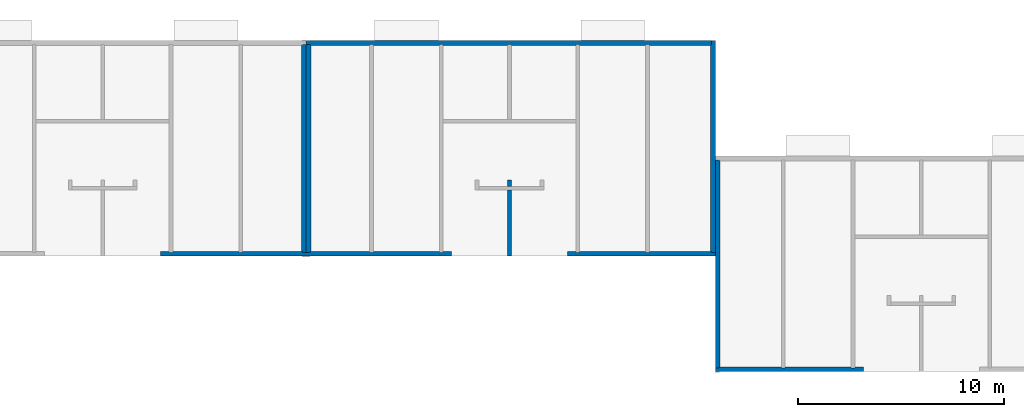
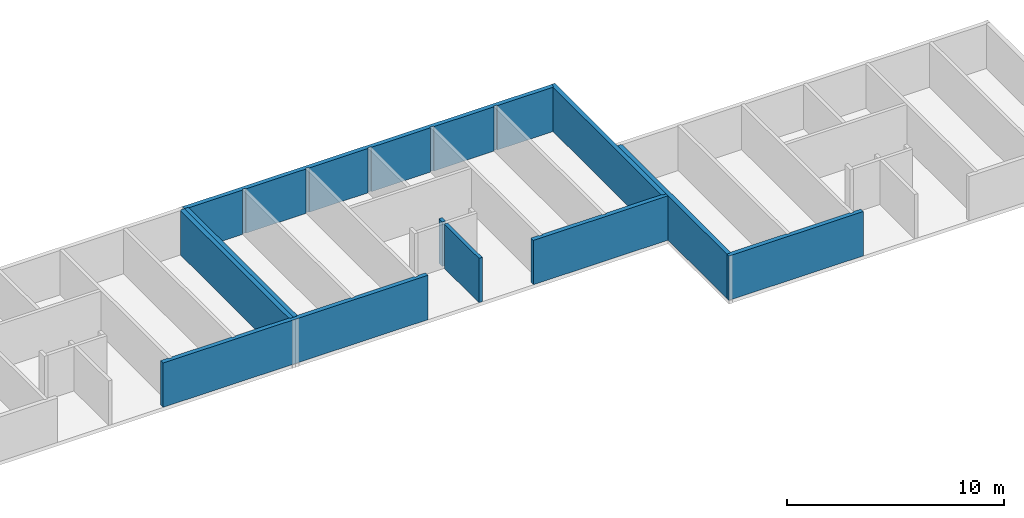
# One storey, part 8 of 9: 10 walls.
"""IFC2X3 building model written with IfcOpenShell, lengths in metres."""

from ifc_helpers import new_model, si_unit, frame, origin, place, context, project, spatial, faceted_brep, element, save


model = new_model("IFC2X3")

# Units and contexts
model_context = context("Model", 3, precision=1e-06, world=origin())
ifc_project = project(units=[si_unit("LENGTHUNIT", "METRE"), si_unit("PLANEANGLEUNIT", "RADIAN")], contexts=[model_context])

# Site, building, storey
site = spatial("IfcSite", under=ifc_project, CompositionType="ELEMENT")
building = spatial("IfcBuilding", under=site, CompositionType="ELEMENT")
storey = spatial("IfcBuildingStorey", under=building, Name="r+2", CompositionType="ELEMENT", Elevation=5.4)

# Walls
placement = place(None, origin())
wall_1_placement = place(placement, frame((29.80499999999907, 0.020038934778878, 5.4), z_axis=(0.0, 0.0, 1.0), x_axis=(0.0, 1.0, 0.0)))
element("IfcWall", 1, at=wall_1_placement, inside=storey, context=model_context, shape_type="Brep", body=[
    faceted_brep([(3.700038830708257, 0.18, 2.5), (3.700038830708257, 0.0, 2.5), (3.700038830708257, 0.0, 0.0), (3.700038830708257, 0.18, 0.0), (3.700038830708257, 0.0, 2.5), (3.380038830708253, 0.0, 2.5), (3.380038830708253, 0.0, 0.0), (3.700038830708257, 0.0, 0.0), (3.380038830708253, 0.0, 2.5), (3.380038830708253, 0.18, 2.5), (3.380038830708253, 0.18, 0.0), (3.380038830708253, 0.0, 0.0), (3.380038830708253, 0.18, 2.5), (3.700038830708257, 0.18, 2.5), (3.700038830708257, 0.18, 0.0), (3.380038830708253, 0.18, 0.0), (3.700038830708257, 0.18, 2.5), (3.380038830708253, 0.18, 2.5), (3.380038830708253, 0.0, 2.5), (3.700038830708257, 0.0, 2.5), (3.700038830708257, 0.18, 0.0), (3.700038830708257, 0.0, 0.0), (3.380038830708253, 0.0, 0.0), (3.380038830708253, 0.18, 0.0)], [[[0, 1, 2, 3]], [[4, 5, 6, 7]], [[8, 9, 10, 11]], [[12, 13, 14, 15]], [[16, 17, 18, 19]], [[20, 21, 22, 23]]]),
])
wall_2_placement = place(placement, frame((29.80499999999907, 0.020038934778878, 5.4), z_axis=(0.0, 0.0, 1.0), x_axis=(0.0, 1.0, 0.0)))
element("IfcWall", 2, at=wall_2_placement, inside=storey, context=model_context, shape_type="Brep", body=[
    faceted_brep([(3.200038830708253, 0.18, 2.5), (3.200038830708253, 0.0, 2.5), (3.200038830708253, 0.0, 0.0), (3.200038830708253, 0.18, 0.0), (3.200038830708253, 0.0, 2.5), (0.0, 0.0, 2.5), (0.0, 0.0, 0.0), (3.200038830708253, 0.0, 0.0), (0.0, 0.0, 2.5), (-7.16957565e-07, 0.18, 2.5), (-7.16957565e-07, 0.18, 0.0), (0.0, 0.0, 0.0), (-7.16957565e-07, 0.18, 2.5), (3.200038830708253, 0.18, 2.5), (3.200038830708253, 0.18, 0.0), (-7.16957565e-07, 0.18, 0.0), (3.200038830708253, 0.18, 2.5), (-7.16957565e-07, 0.18, 2.5), (0.0, 0.0, 2.5), (3.200038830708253, 0.0, 2.5), (3.200038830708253, 0.18, 0.0), (3.200038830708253, 0.0, 0.0), (0.0, 0.0, 0.0), (-7.16957565e-07, 0.18, 0.0)], [[[0, 1, 2, 3]], [[4, 5, 6, 7]], [[8, 9, 10, 11]], [[12, 13, 14, 15]], [[16, 17, 18, 19]], [[20, 21, 22, 23]]]),
])
wall_3_placement = place(placement, frame((19.849999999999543, 10.290077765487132, 5.4), z_axis=(0.0, 0.0, 1.0), x_axis=(0.0, -1.0, 0.0)))
element("IfcWall", 3, at=wall_3_placement, inside=storey, context=model_context, shape_type="Brep", body=[
    faceted_brep([(0.04, 0.18, 2.5), (0.04, 0.22, 2.5), (0.04, 0.22, 0.0), (0.04, 0.18, 0.0), (0.04, 0.22, 2.5), (0.05, 0.22, 2.5), (0.05, 0.22, 0.0), (0.04, 0.22, 0.0), (0.05, 0.22, 2.5), (0.05, 0.23, 2.5), (0.05, 0.23, 0.0), (0.05, 0.22, 0.0), (0.05, 0.23, 2.5), (10.03991497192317, 0.23, 2.5), (10.03991497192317, 0.23, 0.0), (0.05, 0.23, 0.0), (10.03991497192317, 0.23, 2.5), (10.03991497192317, 0.22, 2.5), (10.03991497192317, 0.22, 0.0), (10.03991497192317, 0.23, 0.0), (10.03991497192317, 0.22, 2.5), (10.04991497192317, 0.22, 2.5), (10.04991497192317, 0.22, 0.0), (10.03991497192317, 0.22, 0.0), (10.04991497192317, 0.22, 2.5), (10.04991497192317, 0.18, 2.5), (10.04991497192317, 0.18, 0.0), (10.04991497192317, 0.22, 0.0), (10.04991497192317, 0.18, 2.5), (10.08991497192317, 0.18, 2.5), (10.08991497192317, 0.18, 0.0), (10.04991497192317, 0.18, 0.0), (10.08991497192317, 0.18, 2.5), (10.08991497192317, 0.0, 2.5), (10.08991497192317, 0.0, 0.0), (10.08991497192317, 0.18, 0.0), (10.08991497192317, 0.0, 2.5), (0.0, 0.0, 2.5), (0.0, 0.0, 0.0), (10.08991497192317, 0.0, 0.0), (0.0, 0.0, 2.5), (0.0, 0.18, 2.5), (0.0, 0.18, 0.0), (0.0, 0.0, 0.0), (0.0, 0.18, 2.5), (0.04, 0.18, 2.5), (0.04, 0.18, 0.0), (0.0, 0.18, 0.0), (0.04, 0.18, 2.5), (0.0, 0.18, 2.5), (0.0, 0.0, 2.5), (10.08991497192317, 0.0, 2.5), (10.08991497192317, 0.18, 2.5), (10.04991497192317, 0.18, 2.5), (10.04991497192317, 0.22, 2.5), (10.03991497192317, 0.22, 2.5), (10.03991497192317, 0.23, 2.5), (0.05, 0.23, 2.5), (0.05, 0.22, 2.5), (0.04, 0.22, 2.5), (0.04, 0.18, 0.0), (0.04, 0.22, 0.0), (0.05, 0.22, 0.0), (0.05, 0.23, 0.0), (10.03991497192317, 0.23, 0.0), (10.03991497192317, 0.22, 0.0), (10.04991497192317, 0.22, 0.0), (10.04991497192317, 0.18, 0.0), (10.08991497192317, 0.18, 0.0), (10.08991497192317, 0.0, 0.0), (0.0, 0.0, 0.0), (0.0, 0.18, 0.0)], [[[0, 1, 2, 3]], [[4, 5, 6, 7]], [[8, 9, 10, 11]], [[12, 13, 14, 15]], [[16, 17, 18, 19]], [[20, 21, 22, 23]], [[24, 25, 26, 27]], [[28, 29, 30, 31]], [[32, 33, 34, 35]], [[36, 37, 38, 39]], [[40, 41, 42, 43]], [[44, 45, 46, 47]], [[48, 49, 50, 51, 52, 53, 54, 55, 56, 57, 58, 59]], [[60, 61, 62, 63, 64, 65, 66, 67, 68, 69, 70, 71]]]),
])
wall_4_placement = place(placement, frame((39.69999999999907, 4.690077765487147, 5.4), z_axis=(0.0, 0.0, 1.0), x_axis=(0.0, -1.0, 0.0)))
element("IfcWall", 4, at=wall_4_placement, inside=storey, context=model_context, shape_type="Brep", body=[
    faceted_brep([(0.04, 0.18, 2.5), (0.04, 0.22, 2.5), (0.04, 0.22, 0.0), (0.04, 0.18, 0.0), (0.04, 0.22, 2.5), (0.05, 0.22, 2.5), (0.05, 0.22, 0.0), (0.04, 0.22, 0.0), (0.05, 0.22, 2.5), (0.05, 0.23, 2.5), (0.05, 0.23, 0.0), (0.05, 0.22, 0.0), (0.05, 0.23, 2.5), (10.04000021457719, 0.23, 2.5), (10.04000021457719, 0.23, 0.0), (0.05, 0.23, 0.0), (10.04000021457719, 0.23, 2.5), (10.04000021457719, 0.22, 2.5), (10.04000021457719, 0.22, 0.0), (10.04000021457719, 0.23, 0.0), (10.04000021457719, 0.22, 2.5), (10.05000021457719, 0.22, 2.5), (10.05000021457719, 0.22, 0.0), (10.04000021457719, 0.22, 0.0), (10.05000021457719, 0.22, 2.5), (10.05000021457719, 0.18, 2.5), (10.05000021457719, 0.18, 0.0), (10.05000021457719, 0.22, 0.0), (10.05000021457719, 0.18, 2.5), (10.090000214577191, 0.18, 2.5), (10.090000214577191, 0.18, 0.0), (10.05000021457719, 0.18, 0.0), (10.090000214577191, 0.18, 2.5), (10.090000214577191, 0.0, 2.5), (10.090000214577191, 0.0, 0.0), (10.090000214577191, 0.18, 0.0), (10.090000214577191, 0.0, 2.5), (0.0, 0.0, 2.5), (0.0, 0.0, 0.0), (10.090000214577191, 0.0, 0.0), (0.0, 0.0, 2.5), (0.0, 0.18, 2.5), (0.0, 0.18, 0.0), (0.0, 0.0, 0.0), (0.0, 0.18, 2.5), (0.04, 0.18, 2.5), (0.04, 0.18, 0.0), (0.0, 0.18, 0.0), (0.04, 0.18, 2.5), (0.0, 0.18, 2.5), (0.0, 0.0, 2.5), (10.090000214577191, 0.0, 2.5), (10.090000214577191, 0.18, 2.5), (10.05000021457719, 0.18, 2.5), (10.05000021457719, 0.22, 2.5), (10.04000021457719, 0.22, 2.5), (10.04000021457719, 0.23, 2.5), (0.05, 0.23, 2.5), (0.05, 0.22, 2.5), (0.04, 0.22, 2.5), (0.04, 0.18, 0.0), (0.04, 0.22, 0.0), (0.05, 0.22, 0.0), (0.05, 0.23, 0.0), (10.04000021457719, 0.23, 0.0), (10.04000021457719, 0.22, 0.0), (10.05000021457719, 0.22, 0.0), (10.05000021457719, 0.18, 0.0), (10.090000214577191, 0.18, 0.0), (10.090000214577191, 0.0, 0.0), (0.0, 0.0, 0.0), (0.0, 0.18, 0.0)], [[[0, 1, 2, 3]], [[4, 5, 6, 7]], [[8, 9, 10, 11]], [[12, 13, 14, 15]], [[16, 17, 18, 19]], [[20, 21, 22, 23]], [[24, 25, 26, 27]], [[28, 29, 30, 31]], [[32, 33, 34, 35]], [[36, 37, 38, 39]], [[40, 41, 42, 43]], [[44, 45, 46, 47]], [[48, 49, 50, 51, 52, 53, 54, 55, 56, 57, 58, 59]], [[60, 61, 62, 63, 64, 65, 66, 67, 68, 69, 70, 71]]]),
])
wall_5_placement = place(placement, frame((39.51999999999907, 10.470077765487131, 5.4), z_axis=(0.0, 0.0, 1.0), x_axis=(-1.0, 0.0, 0.0)))
element("IfcWall", 5, at=wall_5_placement, inside=storey, context=model_context, shape_type="Brep", body=[
    faceted_brep([(19.44999999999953, 0.23, 2.5), (19.44999999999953, 0.22, 2.5), (19.44999999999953, 0.22, 0.0), (19.44999999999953, 0.23, 0.0), (19.44999999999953, 0.22, 2.5), (19.48999999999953, 0.22, 2.5), (19.48999999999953, 0.22, 0.0), (19.44999999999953, 0.22, 0.0), (19.48999999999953, 0.22, 2.5), (19.48999999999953, 0.18, 2.5), (19.48999999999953, 0.18, 0.0), (19.48999999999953, 0.22, 0.0), (19.48999999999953, 0.18, 2.5), (19.669999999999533, 0.18, 2.5), (19.669999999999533, 0.18, 0.0), (19.48999999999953, 0.18, 0.0), (19.669999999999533, 0.18, 2.5), (19.669999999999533, 0.0, 2.5), (19.669999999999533, 0.0, 0.0), (19.669999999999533, 0.18, 0.0), (19.669999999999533, 0.0, 2.5), (0.0, 0.0, 2.5), (0.0, 0.0, 0.0), (19.669999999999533, 0.0, 0.0), (0.0, 0.0, 2.5), (0.0, 0.18, 2.5), (0.0, 0.18, 0.0), (0.0, 0.0, 0.0), (0.0, 0.18, 2.5), (0.04, 0.18, 2.5), (0.04, 0.18, 0.0), (0.0, 0.18, 0.0), (0.04, 0.18, 2.5), (0.04, 0.22, 2.5), (0.04, 0.22, 0.0), (0.04, 0.18, 0.0), (0.04, 0.22, 2.5), (0.05, 0.22, 2.5), (0.05, 0.22, 0.0), (0.04, 0.22, 0.0), (0.05, 0.22, 2.5), (0.05, 0.23, 2.5), (0.05, 0.23, 0.0), (0.05, 0.22, 0.0), (0.05, 0.23, 2.5), (3.019999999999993, 0.23, 2.5), (3.019999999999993, 0.23, 0.0), (0.05, 0.23, 0.0), (3.019999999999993, 0.23, 2.5), (3.019999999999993, 0.18, 2.5), (3.019999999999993, 0.18, 0.0), (3.019999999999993, 0.23, 0.0), (3.019999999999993, 0.18, 2.5), (3.199999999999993, 0.18, 2.5), (3.199999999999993, 0.18, 0.0), (3.019999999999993, 0.18, 0.0), (3.199999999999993, 0.18, 2.5), (3.199999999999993, 0.23, 2.5), (3.199999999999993, 0.23, 0.0), (3.199999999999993, 0.18, 0.0), (3.199999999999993, 0.23, 2.5), (6.4, 0.229999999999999, 2.5), (6.4, 0.229999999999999, 0.0), (3.199999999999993, 0.23, 0.0), (6.4, 0.229999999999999, 2.5), (6.4, 0.180000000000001, 2.5), (6.4, 0.180000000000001, 0.0), (6.4, 0.229999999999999, 0.0), (6.4, 0.180000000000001, 2.5), (6.58, 0.180000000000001, 2.5), (6.58, 0.180000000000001, 0.0), (6.4, 0.180000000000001, 0.0), (6.58, 0.180000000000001, 2.5), (6.58, 0.229999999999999, 2.5), (6.58, 0.229999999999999, 0.0), (6.58, 0.180000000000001, 0.0), (6.58, 0.229999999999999, 2.5), (9.714999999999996, 0.229999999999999, 2.5), (9.714999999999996, 0.229999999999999, 0.0), (6.58, 0.229999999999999, 0.0), (9.714999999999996, 0.229999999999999, 2.5), (9.714999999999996, 0.179999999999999, 2.5), (9.714999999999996, 0.179999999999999, 0.0), (9.714999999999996, 0.229999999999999, 0.0), (9.714999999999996, 0.179999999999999, 2.5), (9.894999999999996, 0.179999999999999, 2.5), (9.894999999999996, 0.179999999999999, 0.0), (9.714999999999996, 0.179999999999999, 0.0), (9.894999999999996, 0.179999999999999, 2.5), (9.894999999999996, 0.229999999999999, 2.5), (9.894999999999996, 0.229999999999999, 0.0), (9.894999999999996, 0.179999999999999, 0.0), (9.894999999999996, 0.229999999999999, 2.5), (13.029999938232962, 0.229999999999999, 2.5), (13.029999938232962, 0.229999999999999, 0.0), (9.894999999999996, 0.229999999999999, 0.0), (13.029999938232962, 0.229999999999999, 2.5), (13.029999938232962, 0.179999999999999, 2.5), (13.029999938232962, 0.179999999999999, 0.0), (13.029999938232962, 0.229999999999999, 0.0), (13.029999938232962, 0.179999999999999, 2.5), (13.209999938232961, 0.179999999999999, 2.5), (13.209999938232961, 0.179999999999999, 0.0), (13.029999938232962, 0.179999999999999, 0.0), (13.209999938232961, 0.179999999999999, 2.5), (13.209999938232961, 0.229999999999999, 2.5), (13.209999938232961, 0.229999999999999, 0.0), (13.209999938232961, 0.179999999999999, 0.0), (13.209999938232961, 0.229999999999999, 2.5), (16.41000000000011, 0.23, 2.5), (16.41000000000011, 0.23, 0.0), (13.209999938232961, 0.229999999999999, 0.0), (16.41000000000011, 0.23, 2.5), (16.41000000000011, 0.18, 2.5), (16.41000000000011, 0.18, 0.0), (16.41000000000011, 0.23, 0.0), (16.41000000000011, 0.18, 2.5), (16.59000000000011, 0.18, 2.5), (16.59000000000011, 0.18, 0.0), (16.41000000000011, 0.18, 0.0), (16.59000000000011, 0.18, 2.5), (16.59000000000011, 0.23, 2.5), (16.59000000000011, 0.23, 0.0), (16.59000000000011, 0.18, 0.0), (16.59000000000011, 0.23, 2.5), (19.44999999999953, 0.23, 2.5), (19.44999999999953, 0.23, 0.0), (16.59000000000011, 0.23, 0.0), (19.44999999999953, 0.23, 2.5), (16.59000000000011, 0.23, 2.5), (16.59000000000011, 0.18, 2.5), (16.41000000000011, 0.18, 2.5), (16.41000000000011, 0.23, 2.5), (13.209999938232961, 0.229999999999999, 2.5), (13.209999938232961, 0.179999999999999, 2.5), (13.029999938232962, 0.179999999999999, 2.5), (13.029999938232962, 0.229999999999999, 2.5), (9.894999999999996, 0.229999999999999, 2.5), (9.894999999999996, 0.179999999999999, 2.5), (9.714999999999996, 0.179999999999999, 2.5), (9.714999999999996, 0.229999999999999, 2.5), (6.58, 0.229999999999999, 2.5), (6.58, 0.180000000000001, 2.5), (6.4, 0.180000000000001, 2.5), (6.4, 0.229999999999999, 2.5), (3.199999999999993, 0.23, 2.5), (3.199999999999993, 0.18, 2.5), (3.019999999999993, 0.18, 2.5), (3.019999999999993, 0.23, 2.5), (0.05, 0.23, 2.5), (0.05, 0.22, 2.5), (0.04, 0.22, 2.5), (0.04, 0.18, 2.5), (0.0, 0.18, 2.5), (0.0, 0.0, 2.5), (19.669999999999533, 0.0, 2.5), (19.669999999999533, 0.18, 2.5), (19.48999999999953, 0.18, 2.5), (19.48999999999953, 0.22, 2.5), (19.44999999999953, 0.22, 2.5), (19.44999999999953, 0.23, 0.0), (19.44999999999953, 0.22, 0.0), (19.48999999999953, 0.22, 0.0), (19.48999999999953, 0.18, 0.0), (19.669999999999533, 0.18, 0.0), (19.669999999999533, 0.0, 0.0), (0.0, 0.0, 0.0), (0.0, 0.18, 0.0), (0.04, 0.18, 0.0), (0.04, 0.22, 0.0), (0.05, 0.22, 0.0), (0.05, 0.23, 0.0), (3.019999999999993, 0.23, 0.0), (3.019999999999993, 0.18, 0.0), (3.199999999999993, 0.18, 0.0), (3.199999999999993, 0.23, 0.0), (6.4, 0.229999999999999, 0.0), (6.4, 0.180000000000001, 0.0), (6.58, 0.180000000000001, 0.0), (6.58, 0.229999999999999, 0.0), (9.714999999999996, 0.229999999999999, 0.0), (9.714999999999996, 0.179999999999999, 0.0), (9.894999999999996, 0.179999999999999, 0.0), (9.894999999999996, 0.229999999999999, 0.0), (13.029999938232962, 0.229999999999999, 0.0), (13.029999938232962, 0.179999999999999, 0.0), (13.209999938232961, 0.179999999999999, 0.0), (13.209999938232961, 0.229999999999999, 0.0), (16.41000000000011, 0.23, 0.0), (16.41000000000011, 0.18, 0.0), (16.59000000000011, 0.18, 0.0), (16.59000000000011, 0.23, 0.0)], [[[0, 1, 2, 3]], [[4, 5, 6, 7]], [[8, 9, 10, 11]], [[12, 13, 14, 15]], [[16, 17, 18, 19]], [[20, 21, 22, 23]], [[24, 25, 26, 27]], [[28, 29, 30, 31]], [[32, 33, 34, 35]], [[36, 37, 38, 39]], [[40, 41, 42, 43]], [[44, 45, 46, 47]], [[48, 49, 50, 51]], [[52, 53, 54, 55]], [[56, 57, 58, 59]], [[60, 61, 62, 63]], [[64, 65, 66, 67]], [[68, 69, 70, 71]], [[72, 73, 74, 75]], [[76, 77, 78, 79]], [[80, 81, 82, 83]], [[84, 85, 86, 87]], [[88, 89, 90, 91]], [[92, 93, 94, 95]], [[96, 97, 98, 99]], [[100, 101, 102, 103]], [[104, 105, 106, 107]], [[108, 109, 110, 111]], [[112, 113, 114, 115]], [[116, 117, 118, 119]], [[120, 121, 122, 123]], [[124, 125, 126, 127]], [[128, 129, 130, 131, 132, 133, 134, 135, 136, 137, 138, 139, 140, 141, 142, 143, 144, 145, 146, 147, 148, 149, 150, 151, 152, 153, 154, 155, 156, 157, 158, 159]], [[160, 161, 162, 163, 164, 165, 166, 167, 168, 169, 170, 171, 172, 173, 174, 175, 176, 177, 178, 179, 180, 181, 182, 183, 184, 185, 186, 187, 188, 189, 190, 191]]]),
])
wall_6_placement = place(placement, frame((39.69999999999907, -5.579922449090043, 5.4), z_axis=(0.0, 0.0, 1.0), x_axis=(1.0, 0.0, 0.0)))
element("IfcWall", 6, at=wall_6_placement, inside=storey, context=model_context, shape_type="Brep", body=[
    faceted_brep([(7.175000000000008, 0.0, 2.500000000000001), (0.0, 0.0, 2.500000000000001), (0.0, 0.0, 0.0), (7.175000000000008, 0.0, 0.0), (0.0, 0.0, 2.500000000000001), (0.0, 0.18, 2.500000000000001), (0.0, 0.18, 0.0), (0.0, 0.0, 0.0), (0.0, 0.18, 2.500000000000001), (0.18, 0.18, 2.500000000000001), (0.18, 0.18, 0.0), (0.0, 0.18, 0.0), (0.18, 0.18, 2.500000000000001), (0.18, 0.22, 2.500000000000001), (0.18, 0.22, 0.0), (0.18, 0.18, 0.0), (0.18, 0.22, 2.500000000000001), (0.22, 0.22, 2.500000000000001), (0.22, 0.22, 0.0), (0.18, 0.22, 0.0), (0.22, 0.22, 2.500000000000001), (0.22, 0.23, 2.500000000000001), (0.22, 0.23, 0.0), (0.22, 0.22, 0.0), (0.22, 0.23, 2.500000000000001), (3.200000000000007, 0.23, 2.500000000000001), (3.200000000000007, 0.23, 0.0), (0.22, 0.23, 0.0), (3.200000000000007, 0.23, 2.500000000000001), (3.200000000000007, 0.18, 2.500000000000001), (3.200000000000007, 0.18, 0.0), (3.200000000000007, 0.23, 0.0), (3.200000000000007, 0.18, 2.500000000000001), (3.380000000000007, 0.18, 2.500000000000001), (3.380000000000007, 0.18, 0.0), (3.200000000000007, 0.18, 0.0), (3.380000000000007, 0.18, 2.500000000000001), (3.380000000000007, 0.23, 2.500000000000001), (3.380000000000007, 0.23, 0.0), (3.380000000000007, 0.18, 0.0), (3.380000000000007, 0.23, 2.500000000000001), (6.580000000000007, 0.23, 2.500000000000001), (6.580000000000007, 0.23, 0.0), (3.380000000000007, 0.23, 0.0), (6.580000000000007, 0.23, 2.500000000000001), (6.580000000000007, 0.18, 2.500000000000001), (6.580000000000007, 0.18, 0.0), (6.580000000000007, 0.23, 0.0), (6.580000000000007, 0.18, 2.500000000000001), (6.760000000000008, 0.18, 2.500000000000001), (6.760000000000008, 0.18, 0.0), (6.580000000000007, 0.18, 0.0), (6.760000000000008, 0.18, 2.500000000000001), (6.760000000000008, 0.23, 2.500000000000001), (6.760000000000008, 0.23, 0.0), (6.760000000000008, 0.18, 0.0), (6.760000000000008, 0.23, 2.500000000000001), (7.175000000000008, 0.23, 2.500000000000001), (7.175000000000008, 0.23, 0.0), (6.760000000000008, 0.23, 0.0), (7.175000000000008, 0.23, 2.500000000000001), (7.175000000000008, 0.0, 2.500000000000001), (7.175000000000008, 0.0, 0.0), (7.175000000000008, 0.23, 0.0), (7.175000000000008, 0.0, 2.500000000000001), (7.175000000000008, 0.23, 2.500000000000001), (6.760000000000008, 0.23, 2.500000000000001), (6.760000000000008, 0.18, 2.500000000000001), (6.580000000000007, 0.18, 2.500000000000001), (6.580000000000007, 0.23, 2.500000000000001), (3.380000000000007, 0.23, 2.500000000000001), (3.380000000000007, 0.18, 2.500000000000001), (3.200000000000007, 0.18, 2.500000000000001), (3.200000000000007, 0.23, 2.500000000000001), (0.22, 0.23, 2.500000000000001), (0.22, 0.22, 2.500000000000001), (0.18, 0.22, 2.500000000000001), (0.18, 0.18, 2.500000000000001), (0.0, 0.18, 2.500000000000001), (0.0, 0.0, 2.500000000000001), (7.175000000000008, 0.0, 0.0), (0.0, 0.0, 0.0), (0.0, 0.18, 0.0), (0.18, 0.18, 0.0), (0.18, 0.22, 0.0), (0.22, 0.22, 0.0), (0.22, 0.23, 0.0), (3.200000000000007, 0.23, 0.0), (3.200000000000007, 0.18, 0.0), (3.380000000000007, 0.18, 0.0), (3.380000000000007, 0.23, 0.0), (6.580000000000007, 0.23, 0.0), (6.580000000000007, 0.18, 0.0), (6.760000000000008, 0.18, 0.0), (6.760000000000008, 0.23, 0.0), (7.175000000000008, 0.23, 0.0)], [[[0, 1, 2, 3]], [[4, 5, 6, 7]], [[8, 9, 10, 11]], [[12, 13, 14, 15]], [[16, 17, 18, 19]], [[20, 21, 22, 23]], [[24, 25, 26, 27]], [[28, 29, 30, 31]], [[32, 33, 34, 35]], [[36, 37, 38, 39]], [[40, 41, 42, 43]], [[44, 45, 46, 47]], [[48, 49, 50, 51]], [[52, 53, 54, 55]], [[56, 57, 58, 59]], [[60, 61, 62, 63]], [[64, 65, 66, 67, 68, 69, 70, 71, 72, 73, 74, 75, 76, 77, 78, 79]], [[80, 81, 82, 83, 84, 85, 86, 87, 88, 89, 90, 91, 92, 93, 94, 95]]]),
])
wall_7_placement = place(placement, frame((39.69999999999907, 0.200077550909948, 5.4), z_axis=(0.0, 0.0, 1.0), x_axis=(0.0, 1.0, 0.0)))
element("IfcWall", 7, at=wall_7_placement, inside=storey, context=model_context, shape_type="Brep", body=[
    faceted_brep([(0.04, 0.18, 2.5), (0.04, 0.22, 2.5), (0.04, 0.22, 0.0), (0.04, 0.18, 0.0), (0.04, 0.22, 2.5), (0.05, 0.22, 2.5), (0.05, 0.22, 0.0), (0.04, 0.22, 0.0), (0.05, 0.22, 2.5), (0.05, 0.23, 2.5), (0.05, 0.23, 0.0), (0.05, 0.22, 0.0), (0.05, 0.23, 2.5), (10.05000021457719, 0.23, 2.5), (10.05000021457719, 0.23, 0.0), (0.05, 0.23, 0.0), (10.05000021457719, 0.23, 2.5), (10.05000021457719, 0.22, 2.5), (10.05000021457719, 0.22, 0.0), (10.05000021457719, 0.23, 0.0), (10.05000021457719, 0.22, 2.5), (10.090000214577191, 0.22, 2.5), (10.090000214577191, 0.22, 0.0), (10.05000021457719, 0.22, 0.0), (10.090000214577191, 0.22, 2.5), (10.090000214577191, 0.18, 2.5), (10.090000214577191, 0.18, 0.0), (10.090000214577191, 0.22, 0.0), (10.090000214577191, 0.18, 2.5), (10.270000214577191, 0.18, 2.5), (10.270000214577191, 0.18, 0.0), (10.090000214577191, 0.18, 0.0), (10.270000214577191, 0.18, 2.5), (10.270000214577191, 0.0, 2.5), (10.270000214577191, 0.0, 0.0), (10.270000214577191, 0.18, 0.0), (10.270000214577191, 0.0, 2.5), (0.0, 0.0, 2.5), (0.0, 0.0, 0.0), (10.270000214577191, 0.0, 0.0), (0.0, 0.0, 2.5), (0.0, 0.18, 2.5), (0.0, 0.18, 0.0), (0.0, 0.0, 0.0), (0.0, 0.18, 2.5), (0.04, 0.18, 2.5), (0.04, 0.18, 0.0), (0.0, 0.18, 0.0), (0.04, 0.18, 2.5), (0.0, 0.18, 2.5), (0.0, 0.0, 2.5), (10.270000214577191, 0.0, 2.5), (10.270000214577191, 0.18, 2.5), (10.090000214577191, 0.18, 2.5), (10.090000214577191, 0.22, 2.5), (10.05000021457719, 0.22, 2.5), (10.05000021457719, 0.23, 2.5), (0.05, 0.23, 2.5), (0.05, 0.22, 2.5), (0.04, 0.22, 2.5), (0.04, 0.18, 0.0), (0.04, 0.22, 0.0), (0.05, 0.22, 0.0), (0.05, 0.23, 0.0), (10.05000021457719, 0.23, 0.0), (10.05000021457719, 0.22, 0.0), (10.090000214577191, 0.22, 0.0), (10.090000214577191, 0.18, 0.0), (10.270000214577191, 0.18, 0.0), (10.270000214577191, 0.0, 0.0), (0.0, 0.0, 0.0), (0.0, 0.18, 0.0)], [[[0, 1, 2, 3]], [[4, 5, 6, 7]], [[8, 9, 10, 11]], [[12, 13, 14, 15]], [[16, 17, 18, 19]], [[20, 21, 22, 23]], [[24, 25, 26, 27]], [[28, 29, 30, 31]], [[32, 33, 34, 35]], [[36, 37, 38, 39]], [[40, 41, 42, 43]], [[44, 45, 46, 47]], [[48, 49, 50, 51, 52, 53, 54, 55, 56, 57, 58, 59]], [[60, 61, 62, 63, 64, 65, 66, 67, 68, 69, 70, 71]]]),
])
wall_8_placement = place(placement, frame((12.795000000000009, 0.02016279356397, 5.4), z_axis=(0.0, 0.0, 1.0), x_axis=(1.0, 0.0, 0.0)))
element("IfcWall", 8, at=wall_8_placement, inside=storey, context=model_context, shape_type="Brep", body=[
    faceted_brep([(10.13499999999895, 0.179914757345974, 2.5), (10.314999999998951, 0.179914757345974, 2.5), (10.314999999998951, 0.179914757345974, 0.0), (10.13499999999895, 0.179914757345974, 0.0), (10.314999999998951, 0.179914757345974, 2.5), (10.314999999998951, 0.23, 2.5), (10.314999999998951, 0.23, 0.0), (10.314999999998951, 0.179914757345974, 0.0), (10.314999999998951, 0.23, 2.5), (13.5150000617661, 0.23, 2.5), (13.5150000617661, 0.23, 0.0), (10.314999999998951, 0.23, 0.0), (13.5150000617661, 0.23, 2.5), (13.5150000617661, 0.179914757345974, 2.5), (13.5150000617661, 0.179914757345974, 0.0), (13.5150000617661, 0.23, 0.0), (13.5150000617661, 0.179914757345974, 2.5), (13.695000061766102, 0.179914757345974, 2.5), (13.695000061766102, 0.179914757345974, 0.0), (13.5150000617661, 0.179914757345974, 0.0), (13.695000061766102, 0.179914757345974, 2.5), (13.695000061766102, 0.23, 2.5), (13.695000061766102, 0.23, 0.0), (13.695000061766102, 0.179914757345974, 0.0), (13.695000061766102, 0.23, 2.5), (14.110000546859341, 0.23, 2.5), (14.110000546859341, 0.23, 0.0), (13.695000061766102, 0.23, 0.0), (14.110000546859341, 0.23, 2.5), (14.110000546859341, 0.0, 2.5), (14.110000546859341, 0.0, 0.0), (14.110000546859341, 0.23, 0.0), (14.110000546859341, 0.0, 2.5), (0.0, 0.0, 2.5), (0.0, 0.0, 0.0), (14.110000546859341, 0.0, 0.0), (0.0, 0.0, 2.5), (0.0, 0.23, 2.5), (0.0, 0.23, 0.0), (0.0, 0.0, 0.0), (0.0, 0.23, 2.5), (0.4149999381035, 0.23, 2.5), (0.4149999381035, 0.23, 0.0), (0.0, 0.23, 0.0), (0.4149999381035, 0.23, 2.5), (0.4149999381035, 0.179914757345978, 2.5), (0.4149999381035, 0.179914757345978, 0.0), (0.4149999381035, 0.23, 0.0), (0.4149999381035, 0.179914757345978, 2.5), (0.594999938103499, 0.179914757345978, 2.5), (0.594999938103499, 0.179914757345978, 0.0), (0.4149999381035, 0.179914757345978, 0.0), (0.594999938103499, 0.179914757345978, 2.5), (0.594999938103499, 0.23, 2.5), (0.594999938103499, 0.23, 0.0), (0.594999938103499, 0.179914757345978, 0.0), (0.594999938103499, 0.23, 2.5), (3.795000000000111, 0.23, 2.5), (3.795000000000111, 0.23, 0.0), (0.594999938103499, 0.23, 0.0), (3.795000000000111, 0.23, 2.5), (3.795000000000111, 0.179914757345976, 2.5), (3.795000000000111, 0.179914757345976, 0.0), (3.795000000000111, 0.23, 0.0), (3.795000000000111, 0.179914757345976, 2.5), (3.975000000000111, 0.179914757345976, 2.5), (3.975000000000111, 0.179914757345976, 0.0), (3.795000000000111, 0.179914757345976, 0.0), (3.975000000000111, 0.179914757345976, 2.5), (3.975000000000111, 0.23, 2.5), (3.975000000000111, 0.23, 0.0), (3.975000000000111, 0.179914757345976, 0.0), (3.975000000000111, 0.23, 2.5), (6.834999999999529, 0.23, 2.5), (6.834999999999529, 0.23, 0.0), (3.975000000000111, 0.23, 0.0), (6.834999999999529, 0.23, 2.5), (6.834999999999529, 0.22, 2.5), (6.834999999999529, 0.22, 0.0), (6.834999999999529, 0.23, 0.0), (6.834999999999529, 0.22, 2.5), (6.874999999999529, 0.22, 2.5), (6.874999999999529, 0.22, 0.0), (6.834999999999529, 0.22, 0.0), (6.874999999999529, 0.22, 2.5), (6.874999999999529, 0.18, 2.5), (6.874999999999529, 0.18, 0.0), (6.874999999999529, 0.22, 0.0), (6.874999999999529, 0.18, 2.5), (7.234999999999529, 0.18, 2.5), (7.234999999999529, 0.18, 0.0), (6.874999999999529, 0.18, 0.0), (7.234999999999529, 0.18, 2.5), (7.234999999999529, 0.22, 2.5), (7.234999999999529, 0.22, 0.0), (7.234999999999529, 0.18, 0.0), (7.234999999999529, 0.22, 2.5), (7.274999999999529, 0.22, 2.5), (7.274999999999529, 0.22, 0.0), (7.234999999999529, 0.22, 0.0), (7.274999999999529, 0.22, 2.5), (7.274999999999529, 0.23, 2.5), (7.274999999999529, 0.23, 0.0), (7.274999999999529, 0.22, 0.0), (7.274999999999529, 0.23, 2.5), (10.13499999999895, 0.23, 2.5), (10.13499999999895, 0.23, 0.0), (7.274999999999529, 0.23, 0.0), (10.13499999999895, 0.23, 2.5), (10.13499999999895, 0.179914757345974, 2.5), (10.13499999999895, 0.179914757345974, 0.0), (10.13499999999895, 0.23, 0.0), (10.13499999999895, 0.179914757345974, 2.5), (10.13499999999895, 0.23, 2.5), (7.274999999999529, 0.23, 2.5), (7.274999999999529, 0.22, 2.5), (7.234999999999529, 0.22, 2.5), (7.234999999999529, 0.18, 2.5), (6.874999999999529, 0.18, 2.5), (6.874999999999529, 0.22, 2.5), (6.834999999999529, 0.22, 2.5), (6.834999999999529, 0.23, 2.5), (3.975000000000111, 0.23, 2.5), (3.975000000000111, 0.179914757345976, 2.5), (3.795000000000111, 0.179914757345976, 2.5), (3.795000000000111, 0.23, 2.5), (0.594999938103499, 0.23, 2.5), (0.594999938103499, 0.179914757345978, 2.5), (0.4149999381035, 0.179914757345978, 2.5), (0.4149999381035, 0.23, 2.5), (0.0, 0.23, 2.5), (0.0, 0.0, 2.5), (14.110000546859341, 0.0, 2.5), (14.110000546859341, 0.23, 2.5), (13.695000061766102, 0.23, 2.5), (13.695000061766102, 0.179914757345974, 2.5), (13.5150000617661, 0.179914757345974, 2.5), (13.5150000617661, 0.23, 2.5), (10.314999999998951, 0.23, 2.5), (10.314999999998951, 0.179914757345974, 2.5), (10.13499999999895, 0.179914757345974, 0.0), (10.314999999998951, 0.179914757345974, 0.0), (10.314999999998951, 0.23, 0.0), (13.5150000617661, 0.23, 0.0), (13.5150000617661, 0.179914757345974, 0.0), (13.695000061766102, 0.179914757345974, 0.0), (13.695000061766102, 0.23, 0.0), (14.110000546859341, 0.23, 0.0), (14.110000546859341, 0.0, 0.0), (0.0, 0.0, 0.0), (0.0, 0.23, 0.0), (0.4149999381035, 0.23, 0.0), (0.4149999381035, 0.179914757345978, 0.0), (0.594999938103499, 0.179914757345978, 0.0), (0.594999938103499, 0.23, 0.0), (3.795000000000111, 0.23, 0.0), (3.795000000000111, 0.179914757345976, 0.0), (3.975000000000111, 0.179914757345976, 0.0), (3.975000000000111, 0.23, 0.0), (6.834999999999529, 0.23, 0.0), (6.834999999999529, 0.22, 0.0), (6.874999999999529, 0.22, 0.0), (6.874999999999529, 0.18, 0.0), (7.234999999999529, 0.18, 0.0), (7.234999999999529, 0.22, 0.0), (7.274999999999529, 0.22, 0.0), (7.274999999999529, 0.23, 0.0), (10.13499999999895, 0.23, 0.0)], [[[0, 1, 2, 3]], [[4, 5, 6, 7]], [[8, 9, 10, 11]], [[12, 13, 14, 15]], [[16, 17, 18, 19]], [[20, 21, 22, 23]], [[24, 25, 26, 27]], [[28, 29, 30, 31]], [[32, 33, 34, 35]], [[36, 37, 38, 39]], [[40, 41, 42, 43]], [[44, 45, 46, 47]], [[48, 49, 50, 51]], [[52, 53, 54, 55]], [[56, 57, 58, 59]], [[60, 61, 62, 63]], [[64, 65, 66, 67]], [[68, 69, 70, 71]], [[72, 73, 74, 75]], [[76, 77, 78, 79]], [[80, 81, 82, 83]], [[84, 85, 86, 87]], [[88, 89, 90, 91]], [[92, 93, 94, 95]], [[96, 97, 98, 99]], [[100, 101, 102, 103]], [[104, 105, 106, 107]], [[108, 109, 110, 111]], [[112, 113, 114, 115, 116, 117, 118, 119, 120, 121, 122, 123, 124, 125, 126, 127, 128, 129, 130, 131, 132, 133, 134, 135, 136, 137, 138, 139]], [[140, 141, 142, 143, 144, 145, 146, 147, 148, 149, 150, 151, 152, 153, 154, 155, 156, 157, 158, 159, 160, 161, 162, 163, 164, 165, 166, 167]]]),
])
wall_9_placement = place(placement, frame((32.52499999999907, 0.020077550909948, 5.4), z_axis=(0.0, 0.0, 1.0), x_axis=(1.0, 0.0, 0.0)))
element("IfcWall", 9, at=wall_9_placement, inside=storey, context=model_context, shape_type="Brep", body=[
    faceted_brep([(0.414999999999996, 0.23, 2.5), (0.414999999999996, 0.18, 2.5), (0.414999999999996, 0.18, 0.0), (0.414999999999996, 0.23, 0.0), (0.414999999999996, 0.18, 2.5), (0.594999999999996, 0.18, 2.5), (0.594999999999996, 0.18, 0.0), (0.414999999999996, 0.18, 0.0), (0.594999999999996, 0.18, 2.5), (0.594999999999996, 0.23, 2.5), (0.594999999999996, 0.23, 0.0), (0.594999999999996, 0.18, 0.0), (0.594999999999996, 0.23, 2.5), (3.795000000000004, 0.23, 2.5), (3.795000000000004, 0.23, 0.0), (0.594999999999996, 0.23, 0.0), (3.795000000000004, 0.23, 2.5), (3.795000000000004, 0.18, 2.5), (3.795000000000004, 0.18, 0.0), (3.795000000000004, 0.23, 0.0), (3.795000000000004, 0.18, 2.5), (3.975000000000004, 0.18, 2.5), (3.975000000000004, 0.18, 0.0), (3.795000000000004, 0.18, 0.0), (3.975000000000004, 0.18, 2.5), (3.975000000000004, 0.23, 2.5), (3.975000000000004, 0.23, 0.0), (3.975000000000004, 0.18, 0.0), (3.975000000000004, 0.23, 2.5), (6.954999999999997, 0.23, 2.5), (6.954999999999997, 0.23, 0.0), (3.975000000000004, 0.23, 0.0), (6.954999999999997, 0.23, 2.5), (6.954999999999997, 0.22, 2.5), (6.954999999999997, 0.22, 0.0), (6.954999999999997, 0.23, 0.0), (6.954999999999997, 0.22, 2.5), (6.994999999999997, 0.22, 2.5), (6.994999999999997, 0.22, 0.0), (6.954999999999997, 0.22, 0.0), (6.994999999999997, 0.22, 2.5), (6.994999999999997, 0.18, 2.5), (6.994999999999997, 0.18, 0.0), (6.994999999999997, 0.22, 0.0), (6.994999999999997, 0.18, 2.5), (7.174999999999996, 0.18, 2.5), (7.174999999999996, 0.18, 0.0), (6.994999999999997, 0.18, 0.0), (7.174999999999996, 0.18, 2.5), (7.174999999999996, 0.0, 2.5), (7.174999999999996, 0.0, 0.0), (7.174999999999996, 0.18, 0.0), (7.174999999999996, 0.0, 2.5), (0.0, 0.0, 2.5), (0.0, 0.0, 0.0), (7.174999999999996, 0.0, 0.0), (0.0, 0.0, 2.5), (0.0, 0.23, 2.5), (0.0, 0.23, 0.0), (0.0, 0.0, 0.0), (0.0, 0.23, 2.5), (0.414999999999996, 0.23, 2.5), (0.414999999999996, 0.23, 0.0), (0.0, 0.23, 0.0), (0.414999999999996, 0.23, 2.5), (0.0, 0.23, 2.5), (0.0, 0.0, 2.5), (7.174999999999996, 0.0, 2.5), (7.174999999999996, 0.18, 2.5), (6.994999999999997, 0.18, 2.5), (6.994999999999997, 0.22, 2.5), (6.954999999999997, 0.22, 2.5), (6.954999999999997, 0.23, 2.5), (3.975000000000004, 0.23, 2.5), (3.975000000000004, 0.18, 2.5), (3.795000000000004, 0.18, 2.5), (3.795000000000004, 0.23, 2.5), (0.594999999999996, 0.23, 2.5), (0.594999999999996, 0.18, 2.5), (0.414999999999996, 0.18, 2.5), (0.414999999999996, 0.23, 0.0), (0.414999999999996, 0.18, 0.0), (0.594999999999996, 0.18, 0.0), (0.594999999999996, 0.23, 0.0), (3.795000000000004, 0.23, 0.0), (3.795000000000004, 0.18, 0.0), (3.975000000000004, 0.18, 0.0), (3.975000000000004, 0.23, 0.0), (6.954999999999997, 0.23, 0.0), (6.954999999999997, 0.22, 0.0), (6.994999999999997, 0.22, 0.0), (6.994999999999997, 0.18, 0.0), (7.174999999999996, 0.18, 0.0), (7.174999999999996, 0.0, 0.0), (0.0, 0.0, 0.0), (0.0, 0.23, 0.0)], [[[0, 1, 2, 3]], [[4, 5, 6, 7]], [[8, 9, 10, 11]], [[12, 13, 14, 15]], [[16, 17, 18, 19]], [[20, 21, 22, 23]], [[24, 25, 26, 27]], [[28, 29, 30, 31]], [[32, 33, 34, 35]], [[36, 37, 38, 39]], [[40, 41, 42, 43]], [[44, 45, 46, 47]], [[48, 49, 50, 51]], [[52, 53, 54, 55]], [[56, 57, 58, 59]], [[60, 61, 62, 63]], [[64, 65, 66, 67, 68, 69, 70, 71, 72, 73, 74, 75, 76, 77, 78, 79]], [[80, 81, 82, 83, 84, 85, 86, 87, 88, 89, 90, 91, 92, 93, 94, 95]]]),
])
wall_10_placement = place(placement, frame((19.849999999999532, 0.20016279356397, 5.4), z_axis=(0.0, 0.0, 1.0), x_axis=(0.0, 1.0, 0.0)))
element("IfcWall", 10, at=wall_10_placement, inside=storey, context=model_context, shape_type="Brep", body=[
    faceted_brep([(0.04, 0.18, 2.5), (0.04, 0.22, 2.5), (0.04, 0.22, 0.0), (0.04, 0.18, 0.0), (0.04, 0.22, 2.5), (0.05, 0.22, 2.5), (0.05, 0.22, 0.0), (0.04, 0.22, 0.0), (0.05, 0.22, 2.5), (0.05, 0.23, 2.5), (0.05, 0.23, 0.0), (0.05, 0.22, 0.0), (0.05, 0.23, 2.5), (10.03991497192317, 0.23, 2.5), (10.03991497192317, 0.23, 0.0), (0.05, 0.23, 0.0), (10.03991497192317, 0.23, 2.5), (10.03991497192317, 0.22, 2.5), (10.03991497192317, 0.22, 0.0), (10.03991497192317, 0.23, 0.0), (10.03991497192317, 0.22, 2.5), (10.04991497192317, 0.22, 2.5), (10.04991497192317, 0.22, 0.0), (10.03991497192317, 0.22, 0.0), (10.04991497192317, 0.22, 2.5), (10.04991497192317, 0.18, 2.5), (10.04991497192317, 0.18, 0.0), (10.04991497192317, 0.22, 0.0), (10.04991497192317, 0.18, 2.5), (10.08991497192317, 0.18, 2.5), (10.08991497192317, 0.18, 0.0), (10.04991497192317, 0.18, 0.0), (10.08991497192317, 0.18, 2.5), (10.08991497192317, 0.0, 2.5), (10.08991497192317, 0.0, 0.0), (10.08991497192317, 0.18, 0.0), (10.08991497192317, 0.0, 2.5), (0.0, 0.0, 2.5), (0.0, 0.0, 0.0), (10.08991497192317, 0.0, 0.0), (0.0, 0.0, 2.5), (0.0, 0.18, 2.5), (0.0, 0.18, 0.0), (0.0, 0.0, 0.0), (0.0, 0.18, 2.5), (0.04, 0.18, 2.5), (0.04, 0.18, 0.0), (0.0, 0.18, 0.0), (0.04, 0.18, 2.5), (0.0, 0.18, 2.5), (0.0, 0.0, 2.5), (10.08991497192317, 0.0, 2.5), (10.08991497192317, 0.18, 2.5), (10.04991497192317, 0.18, 2.5), (10.04991497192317, 0.22, 2.5), (10.03991497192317, 0.22, 2.5), (10.03991497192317, 0.23, 2.5), (0.05, 0.23, 2.5), (0.05, 0.22, 2.5), (0.04, 0.22, 2.5), (0.04, 0.18, 0.0), (0.04, 0.22, 0.0), (0.05, 0.22, 0.0), (0.05, 0.23, 0.0), (10.03991497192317, 0.23, 0.0), (10.03991497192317, 0.22, 0.0), (10.04991497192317, 0.22, 0.0), (10.04991497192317, 0.18, 0.0), (10.08991497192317, 0.18, 0.0), (10.08991497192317, 0.0, 0.0), (0.0, 0.0, 0.0), (0.0, 0.18, 0.0)], [[[0, 1, 2, 3]], [[4, 5, 6, 7]], [[8, 9, 10, 11]], [[12, 13, 14, 15]], [[16, 17, 18, 19]], [[20, 21, 22, 23]], [[24, 25, 26, 27]], [[28, 29, 30, 31]], [[32, 33, 34, 35]], [[36, 37, 38, 39]], [[40, 41, 42, 43]], [[44, 45, 46, 47]], [[48, 49, 50, 51, 52, 53, 54, 55, 56, 57, 58, 59]], [[60, 61, 62, 63, 64, 65, 66, 67, 68, 69, 70, 71]]]),
])

save(model, "model.ifc")
